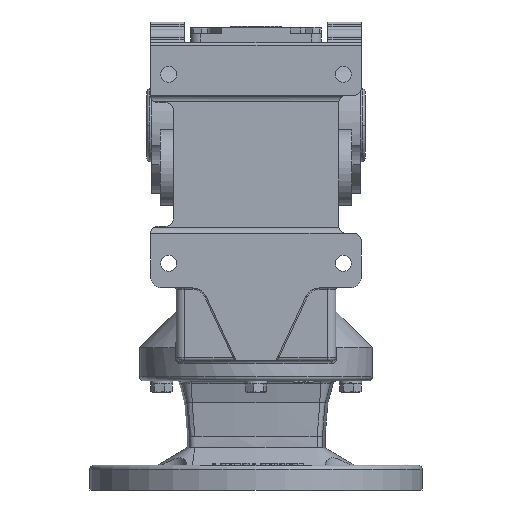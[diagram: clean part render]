
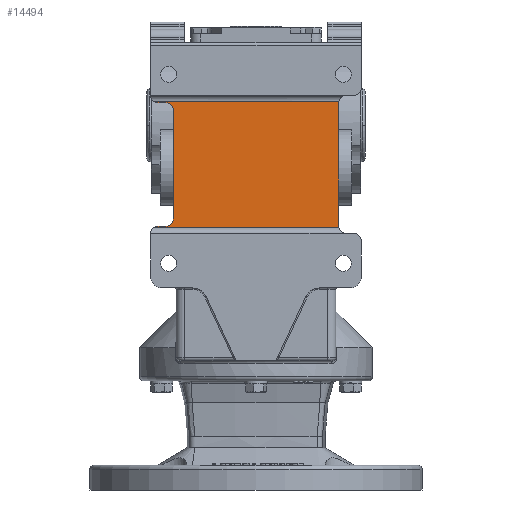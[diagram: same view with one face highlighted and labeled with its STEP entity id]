
A CAD part, front view. The second image highlights one B-rep face of the part: STEP entity #14494.
In plain terms, the highlighted planar face has unit normal (0, -1, 0).
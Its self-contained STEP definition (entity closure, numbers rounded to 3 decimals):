
#1576 = EDGE_LOOP ( 'NONE', ( #25247, #25249, #25252, #25254, #25257, #25258, #25259, #25260, #25261, #25262, #25263, #25264 ) ) ;
#7783 = AXIS2_PLACEMENT_3D ( 'NONE', #28540, #28541, #28542 ) ;
#7786 = AXIS2_PLACEMENT_3D ( 'NONE', #28546, #28547, #28548 ) ;
#7788 = AXIS2_PLACEMENT_3D ( 'NONE', #28549, #28550, #28551 ) ;
#7790 = AXIS2_PLACEMENT_3D ( 'NONE', #28554, #28555, #28556 ) ;
#7792 = AXIS2_PLACEMENT_3D ( 'NONE', #28559, #28560, #28561 ) ;
#7794 = AXIS2_PLACEMENT_3D ( 'NONE', #28564, #28565, #28566 ) ;
#9655 = CARTESIAN_POINT ( 'NONE',  ( -62., -107., 15.5 ) ) ;
#9657 = CARTESIAN_POINT ( 'NONE',  ( -57., -107., 10.5 ) ) ;
#9659 = CARTESIAN_POINT ( 'NONE',  ( 57.101, -107., -70.5 ) ) ;
#9661 = CARTESIAN_POINT ( 'NONE',  ( -70.5, -107., 16.5 ) ) ;
#9662 = CARTESIAN_POINT ( 'NONE',  ( -57., -107., -64.5 ) ) ;
#9663 = CARTESIAN_POINT ( 'NONE',  ( -67.5, -107., 15.5 ) ) ;
#9664 = CARTESIAN_POINT ( 'NONE',  ( -70.5, -107., -70.5 ) ) ;
#9666 = CARTESIAN_POINT ( 'NONE',  ( 57.101, -107., 16.5 ) ) ;
#9669 = CARTESIAN_POINT ( 'NONE',  ( 57., -107., 15.5 ) ) ;
#9670 = CARTESIAN_POINT ( 'NONE',  ( -67.5, -107., -69.5 ) ) ;
#9672 = CARTESIAN_POINT ( 'NONE',  ( -62., -107., -69.5 ) ) ;
#9930 = LINE ( 'NONE', #28497, #9935 ) ;
#9935 = VECTOR ( 'NONE', #28499, 1000. ) ;
#9937 = LINE ( 'NONE', #28536, #9939 ) ;
#9939 = VECTOR ( 'NONE', #28538, 1000. ) ;
#9942 = CIRCLE ( 'NONE', #7783, 5. ) ;
#9944 = CIRCLE ( 'NONE', #7786, 5. ) ;
#9946 = LINE ( 'NONE', #28537, #9950 ) ;
#9950 = VECTOR ( 'NONE', #28519, 1000. ) ;
#9952 = LINE ( 'NONE', #28543, #9956 ) ;
#9954 = CIRCLE ( 'NONE', #7788, 5. ) ;
#9956 = VECTOR ( 'NONE', #28539, 1000. ) ;
#9957 = LINE ( 'NONE', #28544, #9961 ) ;
#9959 = CIRCLE ( 'NONE', #7790, 5. ) ;
#9961 = VECTOR ( 'NONE', #28545, 1000. ) ;
#9962 = CIRCLE ( 'NONE', #7792, 5. ) ;
#9965 = LINE ( 'NONE', #28552, #9969 ) ;
#9967 = CIRCLE ( 'NONE', #7794, 5. ) ;
#9969 = VECTOR ( 'NONE', #28553, 1000. ) ;
#14494 = ADVANCED_FACE ( 'NONE', ( #16318 ), #26418, .F. ) ;
#16318 = FACE_OUTER_BOUND ( 'NONE', #1576, .T. ) ;
#18446 = VERTEX_POINT ( 'NONE', #34179 ) ;
#25247 = ORIENTED_EDGE ( 'NONE', *, *, #42112, .T. ) ;
#25249 = ORIENTED_EDGE ( 'NONE', *, *, #42113, .T. ) ;
#25252 = ORIENTED_EDGE ( 'NONE', *, *, #42114, .F. ) ;
#25254 = ORIENTED_EDGE ( 'NONE', *, *, #42115, .T. ) ;
#25257 = ORIENTED_EDGE ( 'NONE', *, *, #42116, .F. ) ;
#25258 = ORIENTED_EDGE ( 'NONE', *, *, #42117, .T. ) ;
#25259 = ORIENTED_EDGE ( 'NONE', *, *, #42118, .T. ) ;
#25260 = ORIENTED_EDGE ( 'NONE', *, *, #42119, .T. ) ;
#25261 = ORIENTED_EDGE ( 'NONE', *, *, #42108, .F. ) ;
#25262 = ORIENTED_EDGE ( 'NONE', *, *, #42120, .T. ) ;
#25263 = ORIENTED_EDGE ( 'NONE', *, *, #42121, .F. ) ;
#25264 = ORIENTED_EDGE ( 'NONE', *, *, #42122, .T. ) ;
#26417 = CARTESIAN_POINT ( 'NONE',  ( 80., -107., -70.5 ) ) ;
#26418 = PLANE ( 'NONE',  #27426 ) ;
#26422 = DIRECTION ( 'NONE',  ( 0., 1., 0. ) ) ;
#26423 = DIRECTION ( 'NONE',  ( -1., 0., 0. ) ) ;
#27426 = AXIS2_PLACEMENT_3D ( 'NONE', #26417, #26422, #26423 ) ;
#28497 = CARTESIAN_POINT ( 'NONE',  ( 80., -107., -70.5 ) ) ;
#28499 = DIRECTION ( 'NONE',  ( -1., 0., 0. ) ) ;
#28519 = DIRECTION ( 'NONE',  ( -1., 0., 0. ) ) ;
#28536 = CARTESIAN_POINT ( 'NONE',  ( 80., -107., 16.5 ) ) ;
#28537 = CARTESIAN_POINT ( 'NONE',  ( -57., -107., 15.5 ) ) ;
#28538 = DIRECTION ( 'NONE',  ( -1., 0., 0. ) ) ;
#28539 = DIRECTION ( 'NONE',  ( 0., 0., 1. ) ) ;
#28540 = CARTESIAN_POINT ( 'NONE',  ( -67.5, -107., 20.5 ) ) ;
#28541 = DIRECTION ( 'NONE',  ( 0., -1., 0. ) ) ;
#28542 = DIRECTION ( 'NONE',  ( -1., 0., 0. ) ) ;
#28543 = CARTESIAN_POINT ( 'NONE',  ( -57., -107., -69.5 ) ) ;
#28544 = CARTESIAN_POINT ( 'NONE',  ( -57., -107., -69.5 ) ) ;
#28545 = DIRECTION ( 'NONE',  ( -1., 0., 0. ) ) ;
#28546 = CARTESIAN_POINT ( 'NONE',  ( -62., -107., 10.5 ) ) ;
#28547 = DIRECTION ( 'NONE',  ( 0., 1., 0. ) ) ;
#28548 = DIRECTION ( 'NONE',  ( -1., 0., 0. ) ) ;
#28549 = CARTESIAN_POINT ( 'NONE',  ( -62., -107., -64.5 ) ) ;
#28550 = DIRECTION ( 'NONE',  ( 0., 1., 0. ) ) ;
#28551 = DIRECTION ( 'NONE',  ( -1., 0., 0. ) ) ;
#28552 = CARTESIAN_POINT ( 'NONE',  ( 57., -107., 16.5 ) ) ;
#28553 = DIRECTION ( 'NONE',  ( 0., 0., -1. ) ) ;
#28554 = CARTESIAN_POINT ( 'NONE',  ( -67.5, -107., -74.5 ) ) ;
#28555 = DIRECTION ( 'NONE',  ( 0., -1., 0. ) ) ;
#28556 = DIRECTION ( 'NONE',  ( -1., 0., 0. ) ) ;
#28559 = CARTESIAN_POINT ( 'NONE',  ( 62., -107., -69.5 ) ) ;
#28560 = DIRECTION ( 'NONE',  ( 0., 1., 0. ) ) ;
#28561 = DIRECTION ( 'NONE',  ( -1., 0., 0. ) ) ;
#28564 = CARTESIAN_POINT ( 'NONE',  ( 62., -107., 15.5 ) ) ;
#28565 = DIRECTION ( 'NONE',  ( 0., 1., 0. ) ) ;
#28566 = DIRECTION ( 'NONE',  ( -1., 0., 0. ) ) ;
#34179 = CARTESIAN_POINT ( 'NONE',  ( 57., -107., -69.5 ) ) ;
#42108 = EDGE_CURVE ( 'NONE', #50627, #50638, #9930, .T. ) ;
#42112 = EDGE_CURVE ( 'NONE', #50643, #50632, #9937, .T. ) ;
#42113 = EDGE_CURVE ( 'NONE', #50632, #50637, #9942, .T. ) ;
#42114 = EDGE_CURVE ( 'NONE', #50635, #50637, #9946, .T. ) ;
#42115 = EDGE_CURVE ( 'NONE', #50635, #50647, #9944, .T. ) ;
#42116 = EDGE_CURVE ( 'NONE', #50634, #50647, #9952, .T. ) ;
#42117 = EDGE_CURVE ( 'NONE', #50634, #50657, #9954, .T. ) ;
#42118 = EDGE_CURVE ( 'NONE', #50657, #50654, #9957, .T. ) ;
#42119 = EDGE_CURVE ( 'NONE', #50654, #50638, #9959, .T. ) ;
#42120 = EDGE_CURVE ( 'NONE', #50627, #18446, #9962, .T. ) ;
#42121 = EDGE_CURVE ( 'NONE', #50651, #18446, #9965, .T. ) ;
#42122 = EDGE_CURVE ( 'NONE', #50651, #50643, #9967, .T. ) ;
#50627 = VERTEX_POINT ( 'NONE', #9659 ) ;
#50632 = VERTEX_POINT ( 'NONE', #9661 ) ;
#50634 = VERTEX_POINT ( 'NONE', #9662 ) ;
#50635 = VERTEX_POINT ( 'NONE', #9655 ) ;
#50637 = VERTEX_POINT ( 'NONE', #9663 ) ;
#50638 = VERTEX_POINT ( 'NONE', #9664 ) ;
#50643 = VERTEX_POINT ( 'NONE', #9666 ) ;
#50647 = VERTEX_POINT ( 'NONE', #9657 ) ;
#50651 = VERTEX_POINT ( 'NONE', #9669 ) ;
#50654 = VERTEX_POINT ( 'NONE', #9670 ) ;
#50657 = VERTEX_POINT ( 'NONE', #9672 ) ;
